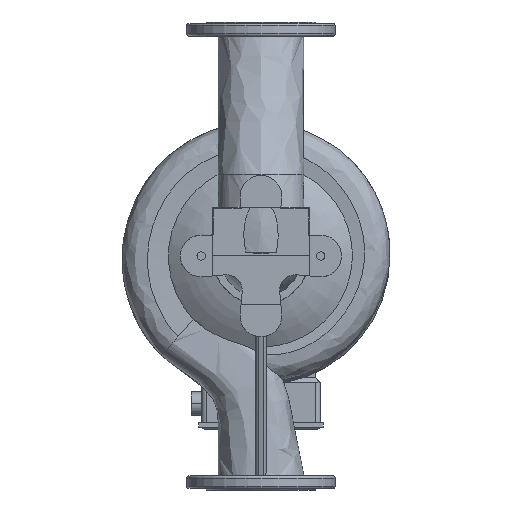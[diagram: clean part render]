
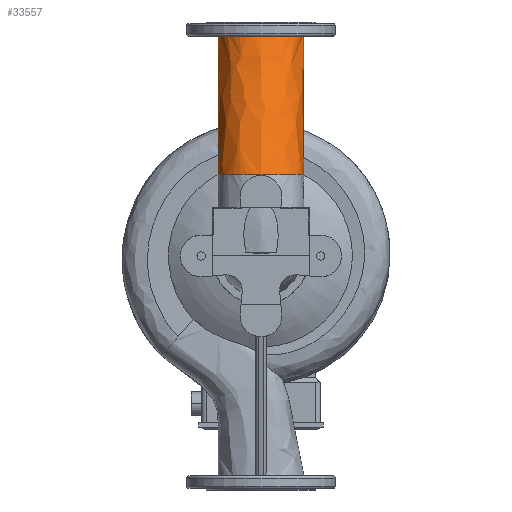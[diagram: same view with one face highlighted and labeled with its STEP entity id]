
A CAD part, front view. The second image highlights one B-rep face of the part: STEP entity #33557.
In plain terms, the highlighted free-form (B-spline) face has degree [3, 1] with [7, 2] control points.
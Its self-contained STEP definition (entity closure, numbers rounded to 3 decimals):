
#697 = EDGE_CURVE ( 'NONE', #19972, #27384, #16523, .T. ) ;
#1602 = CARTESIAN_POINT ( 'NONE',  ( -82.5, -165., 423. ) ) ;
#1768 = CIRCLE ( 'NONE', #24077, 82.5 ) ;
#1935 = CARTESIAN_POINT ( 'NONE',  ( -82.5, -124.083, 156.902 ) ) ;
#2258 = CARTESIAN_POINT ( 'NONE',  ( 82.5, 165., 423. ) ) ;
#2322 = ORIENTED_EDGE ( 'NONE', *, *, #11693, .T. ) ;
#2589 = CARTESIAN_POINT ( 'NONE',  ( -82.5, 0., 423. ) ) ;
#3039 = EDGE_LOOP ( 'NONE', ( #25063, #10135, #2322, #20962, #13887, #25916 ) ) ;
#4158 = FACE_OUTER_BOUND ( 'NONE', #3039, .T. ) ;
#4502 = CARTESIAN_POINT ( 'NONE',  ( -82.5, -62.042, 289.951 ) ) ;
#5796 = CARTESIAN_POINT ( 'NONE',  ( 82.5, -62.042, 289.951 ) ) ;
#6565 = VERTEX_POINT ( 'NONE', #10053 ) ;
#6993 = CARTESIAN_POINT ( 'NONE',  ( -82.5, 0., 423. ) ) ;
#7628 = CARTESIAN_POINT ( 'NONE',  ( 0., -124.083, 156.902 ) ) ;
#7687 = EDGE_CURVE ( 'NONE', #6565, #19972, #29165, .T. ) ;
#8470 = CARTESIAN_POINT ( 'NONE',  ( 82.5, -107.873, 191.667 ) ) ;
#9914 = CARTESIAN_POINT ( 'NONE',  ( -82.5, 0., 423. ) ) ;
#10053 = CARTESIAN_POINT ( 'NONE',  ( 82.5, -124.083, 156.902 ) ) ;
#10135 = ORIENTED_EDGE ( 'NONE', *, *, #697, .T. ) ;
#10698 = AXIS2_PLACEMENT_3D ( 'NONE', #7628, #18026, #25532 ) ;
#10864 = VERTEX_POINT ( 'NONE', #11543 ) ;
#11543 = CARTESIAN_POINT ( 'NONE',  ( -82.5, -124.083, 156.902 ) ) ;
#11693 = EDGE_CURVE ( 'NONE', #27384, #25691, #1768, .T. ) ;
#12014 = CARTESIAN_POINT ( 'NONE',  ( -82.5, -124.083, 156.902 ) ) ;
#12339 = CARTESIAN_POINT ( 'NONE',  ( -82.5, 40.917, 156.902 ) ) ;
#12506 = CARTESIAN_POINT ( 'NONE',  ( 82.5, -124.083, 156.902 ) ) ;
#12517 = CARTESIAN_POINT ( 'NONE',  ( -82.5, -107.873, 191.667 ) ) ;
#13563 = EDGE_CURVE ( 'NONE', #6565, #10864, #25385, .T. ) ;
#13887 = ORIENTED_EDGE ( 'NONE', *, *, #25073, .F. ) ;
#14563 = CARTESIAN_POINT ( 'NONE',  ( -82.5, -289.083, 156.902 ) ) ;
#15645 = CARTESIAN_POINT ( 'NONE',  ( 82.5, -107.873, 191.667 ) ) ;
#16523 = B_SPLINE_CURVE_WITH_KNOTS ( 'NONE', 1,
 ( #15645, #28112 ),
 .UNSPECIFIED., .F., .F.,
 ( 2, 2 ),
 ( 0.131, 1. ),
 .UNSPECIFIED. ) ;
#16900 = CARTESIAN_POINT ( 'NONE',  ( 82.5, 0., 423. ) ) ;
#17130 = CARTESIAN_POINT ( 'NONE',  ( 82.5, -289.083, 156.902 ) ) ;
#17297 = EDGE_CURVE ( 'NONE', #22819, #25691, #22941, .T. ) ;
#17889 = CARTESIAN_POINT ( 'NONE',  ( -82.5, -107.873, 191.667 ) ) ;
#18026 = DIRECTION ( 'NONE',  ( 0., 0., -1. ) ) ;
#19683 = CARTESIAN_POINT ( 'NONE',  ( -82.5, 165., 423. ) ) ;
#19820 = VECTOR ( 'NONE', #20512, 1000. ) ;
#19972 = VERTEX_POINT ( 'NONE', #8470 ) ;
#20512 = DIRECTION ( 'NONE',  ( 0., 0.423, 0.906 ) ) ;
#20962 = ORIENTED_EDGE ( 'NONE', *, *, #17297, .F. ) ;
#21828 = DIRECTION ( 'NONE',  ( 0., 0.423, 0.906 ) ) ;
#22232 = CARTESIAN_POINT ( 'NONE',  ( 82.5, 0., 423. ) ) ;
#22819 = VERTEX_POINT ( 'NONE', #12517 ) ;
#22941 = B_SPLINE_CURVE_WITH_KNOTS ( 'NONE', 1,
 ( #17889, #6993 ),
 .UNSPECIFIED., .F., .F.,
 ( 2, 2 ),
 ( 0.131, 1. ),
 .UNSPECIFIED. ) ;
#24006 = VECTOR ( 'NONE', #21828, 1000. ) ;
#24077 = AXIS2_PLACEMENT_3D ( 'NONE', #30743, #28020, #25448 ) ;
#24958 = CARTESIAN_POINT ( 'NONE',  ( -82.5, 0., 423. ) ) ;
#25063 = ORIENTED_EDGE ( 'NONE', *, *, #7687, .T. ) ;
#25073 = EDGE_CURVE ( 'NONE', #10864, #22819, #27875, .T. ) ;
#25126 = CARTESIAN_POINT ( 'NONE',  ( 82.5, 40.917, 156.902 ) ) ;
#25224 =( BOUNDED_SURFACE ( )  B_SPLINE_SURFACE ( 3, 1, ( 
 ( #1935, #24958 ),
 ( #12339, #19683 ),
 ( #25126, #2258 ),
 ( #12506, #22232 ),
 ( #17130, #32990 ),
 ( #14563, #1602 ),
 ( #12014, #2589 ) ),
 .UNSPECIFIED., .T., .F., .F. ) 
 B_SPLINE_SURFACE_WITH_KNOTS ( ( 4, 3, 4 ),
 ( 2, 2 ),
 ( 0., 0.5, 1. ),
 ( 0., 1. ),
 .UNSPECIFIED. ) 
 GEOMETRIC_REPRESENTATION_ITEM ( )  RATIONAL_B_SPLINE_SURFACE ( (
 ( 1., 1.),
 ( 0.333, 0.333),
 ( 0.333, 0.333),
 ( 1., 1.),
 ( 0.333, 0.333),
 ( 0.333, 0.333),
 ( 1., 1.) ) ) 
 REPRESENTATION_ITEM ( '' )  SURFACE ( )  );
#25385 = CIRCLE ( 'NONE', #10698, 82.5 ) ;
#25448 = DIRECTION ( 'NONE',  ( -1., 0., 0. ) ) ;
#25532 = DIRECTION ( 'NONE',  ( -1., 0., 0. ) ) ;
#25691 = VERTEX_POINT ( 'NONE', #9914 ) ;
#25916 = ORIENTED_EDGE ( 'NONE', *, *, #13563, .F. ) ;
#27384 = VERTEX_POINT ( 'NONE', #16900 ) ;
#27875 = LINE ( 'NONE', #4502, #19820 ) ;
#28020 = DIRECTION ( 'NONE',  ( 0., 0., -1. ) ) ;
#28112 = CARTESIAN_POINT ( 'NONE',  ( 82.5, 0., 423. ) ) ;
#29165 = LINE ( 'NONE', #5796, #24006 ) ;
#30743 = CARTESIAN_POINT ( 'NONE',  ( 0., 0., 423. ) ) ;
#32990 = CARTESIAN_POINT ( 'NONE',  ( 82.5, -165., 423. ) ) ;
#33557 = ADVANCED_FACE ( 'NONE', ( #4158 ), #25224, .F. ) ;
